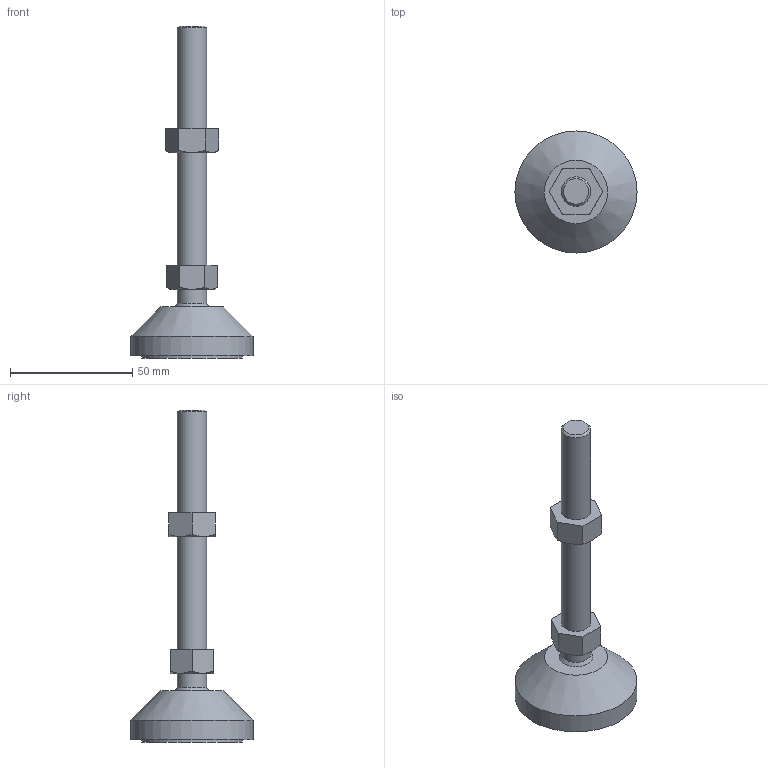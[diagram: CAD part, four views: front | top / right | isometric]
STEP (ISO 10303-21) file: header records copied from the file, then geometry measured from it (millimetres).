
FILE_DESCRIPTION(('STEP AP214'),'1');
FILE_NAME('AJBT-M12.stp','2017-07-21T01:17:54',(' '),(' '),'Spatial InterOp 3D',' ',' ');
FILE_SCHEMA(('automotive_design'));
Length unit declared in the file: millimetre
Products named in the file (4): AJBT-M12; AJBT-M12シャフト; AJBT-M12ﾊﾟｯﾄ; M12NT
Assembly tree (3 placements, depth 2):
  AJBT-M12
    AJBT-M12シャフト
    AJBT-M12ﾊﾟｯﾄ
    M12NT
Bounding box: 50 x 50 x 136 mm (x, y, z)
Volume: 47758.4 mm3; surface area: 13366.5 mm2
Topology: 3 solids, 3 shells, 31 faces, 69 edges, 46 vertices
Faces by surface type: plane 20, cylinder 5, cone 4, sphere 2
Full cylindrical faces by diameter (mm): 12 x3, 41 x1, 50 x1
Entity records: 1193 total; most frequent: CARTESIAN_POINT 259, DIRECTION 124, ORIENTED_EDGE 102, EDGE_CURVE 51, AXIS2_PLACEMENT_3D 50, EDGE_LOOP 46, VERTEX_POINT 41, FACE_OUTER_BOUND 36
